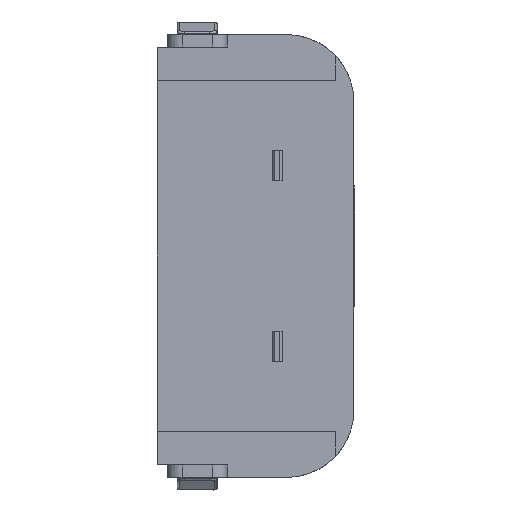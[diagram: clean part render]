
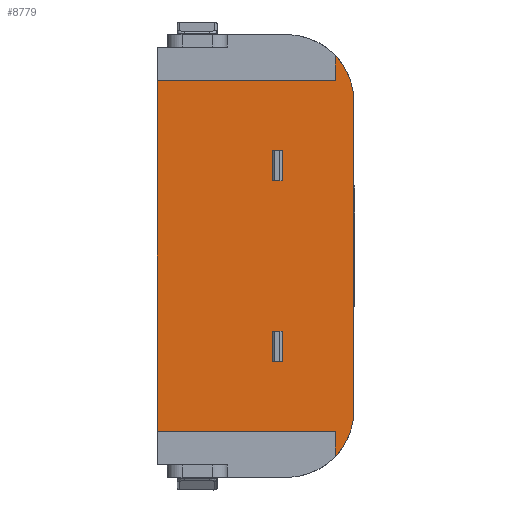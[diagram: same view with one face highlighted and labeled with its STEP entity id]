
A CAD part, left-side view. The second image highlights one B-rep face of the part: STEP entity #8779.
In plain terms, the highlighted planar face has unit normal (-1, 0, 0).
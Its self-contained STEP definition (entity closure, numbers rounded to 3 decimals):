
#2018=DIRECTION('',(0.,1.,0.));
#2019=VECTOR('',#2018,3.56);
#2020=CARTESIAN_POINT('',(2.5,2.34,-2.));
#2021=LINE('',#2020,#2019);
#2026=DIRECTION('',(0.,0.,-1.));
#2027=VECTOR('',#2026,0.498);
#2028=CARTESIAN_POINT('',(2.5,2.34,-1.502));
#2029=LINE('',#2028,#2027);
#2042=CARTESIAN_POINT('',(2.5,3.32,-2.43));
#2043=DIRECTION('',(1.,0.,0.));
#2044=DIRECTION('',(0.,-0.726,0.688));
#2045=AXIS2_PLACEMENT_3D('',#2042,#2043,#2044);
#2047=DIRECTION('',(0.,0.,-1.));
#2048=VECTOR('',#2047,6.14);
#2049=CARTESIAN_POINT('',(2.5,1.97,-2.43));
#2050=LINE('',#2049,#2048);
#2051=CARTESIAN_POINT('',(2.5,3.32,-8.57));
#2052=DIRECTION('',(1.,0.,0.));
#2053=DIRECTION('',(0.,-1.,0.));
#2054=AXIS2_PLACEMENT_3D('',#2051,#2052,#2053);
#2056=DIRECTION('',(0.,-1.,0.));
#2057=VECTOR('',#2056,3.56);
#2058=CARTESIAN_POINT('',(2.5,5.9,-9.));
#2059=LINE('',#2058,#2057);
#2064=DIRECTION('',(0.,0.,-1.));
#2065=VECTOR('',#2064,0.498);
#2066=CARTESIAN_POINT('',(2.5,2.34,-9.));
#2067=LINE('',#2066,#2065);
#3205=DIRECTION('',(0.,0.,-1.));
#3206=VECTOR('',#3205,7.);
#3207=CARTESIAN_POINT('',(2.5,5.9,-2.));
#3208=LINE('',#3207,#3206);
#3506=DIRECTION('',(0.,1.,0.));
#3507=VECTOR('',#3506,0.2);
#3508=CARTESIAN_POINT('',(2.5,3.4,-7.6));
#3509=LINE('',#3508,#3507);
#3522=DIRECTION('',(0.,-1.,0.));
#3523=VECTOR('',#3522,0.2);
#3524=CARTESIAN_POINT('',(2.5,3.6,-7.));
#3525=LINE('',#3524,#3523);
#3550=DIRECTION('',(0.,0.,1.));
#3551=VECTOR('',#3550,0.6);
#3552=CARTESIAN_POINT('',(2.5,3.6,-7.6));
#3553=LINE('',#3552,#3551);
#3566=DIRECTION('',(0.,0.,-1.));
#3567=VECTOR('',#3566,0.6);
#3568=CARTESIAN_POINT('',(2.5,3.4,-7.));
#3569=LINE('',#3568,#3567);
#3582=DIRECTION('',(0.,0.,1.));
#3583=VECTOR('',#3582,0.6);
#3584=CARTESIAN_POINT('',(2.5,3.6,-4.));
#3585=LINE('',#3584,#3583);
#3606=DIRECTION('',(0.,1.,0.));
#3607=VECTOR('',#3606,0.2);
#3608=CARTESIAN_POINT('',(2.5,3.4,-4.));
#3609=LINE('',#3608,#3607);
#3614=DIRECTION('',(0.,-1.,0.));
#3615=VECTOR('',#3614,0.2);
#3616=CARTESIAN_POINT('',(2.5,3.6,-3.4));
#3617=LINE('',#3616,#3615);
#3634=DIRECTION('',(0.,0.,-1.));
#3635=VECTOR('',#3634,0.6);
#3636=CARTESIAN_POINT('',(2.5,3.4,-3.4));
#3637=LINE('',#3636,#3635);
#4532=CARTESIAN_POINT('',(2.5,1.97,-2.43));
#4533=CARTESIAN_POINT('',(2.5,1.97,-8.57));
#4534=VERTEX_POINT('',#4532);
#4535=VERTEX_POINT('',#4533);
#4552=CARTESIAN_POINT('',(2.5,3.4,-7.6));
#4553=CARTESIAN_POINT('',(2.5,3.6,-7.6));
#4554=VERTEX_POINT('',#4552);
#4555=VERTEX_POINT('',#4553);
#4556=CARTESIAN_POINT('',(2.5,3.4,-7.));
#4557=VERTEX_POINT('',#4556);
#4558=CARTESIAN_POINT('',(2.5,3.6,-7.));
#4559=VERTEX_POINT('',#4558);
#4560=CARTESIAN_POINT('',(2.5,3.6,-4.));
#4561=CARTESIAN_POINT('',(2.5,3.6,-3.4));
#4562=VERTEX_POINT('',#4560);
#4563=VERTEX_POINT('',#4561);
#4564=CARTESIAN_POINT('',(2.5,3.4,-4.));
#4565=VERTEX_POINT('',#4564);
#4566=CARTESIAN_POINT('',(2.5,3.4,-3.4));
#4567=VERTEX_POINT('',#4566);
#4568=CARTESIAN_POINT('',(2.5,5.9,-9.));
#4569=CARTESIAN_POINT('',(2.5,2.34,-9.));
#4570=VERTEX_POINT('',#4568);
#4571=VERTEX_POINT('',#4569);
#4576=CARTESIAN_POINT('',(2.5,2.34,-9.498));
#4577=VERTEX_POINT('',#4576);
#4579=CARTESIAN_POINT('',(2.5,2.34,-2.));
#4581=VERTEX_POINT('',#4579);
#4582=CARTESIAN_POINT('',(2.5,2.34,-1.502));
#4583=VERTEX_POINT('',#4582);
#5491=CARTESIAN_POINT('',(2.5,5.9,-2.));
#5492=VERTEX_POINT('',#5491);
#8739=CARTESIAN_POINT('',(2.5,3.935,-5.5));
#8740=DIRECTION('',(1.,0.,0.));
#8741=DIRECTION('',(0.,1.,0.));
#8742=AXIS2_PLACEMENT_3D('',#8739,#8740,#8741);
#8743=PLANE('',#8742);
#8745=ORIENTED_EDGE('',*,*,#8744,.F.);
#8747=ORIENTED_EDGE('',*,*,#8746,.F.);
#8748=ORIENTED_EDGE('',*,*,#8702,.F.);
#8749=ORIENTED_EDGE('',*,*,#8718,.F.);
#8750=ORIENTED_EDGE('',*,*,#8728,.T.);
#8752=ORIENTED_EDGE('',*,*,#8751,.T.);
#8754=ORIENTED_EDGE('',*,*,#8753,.T.);
#8756=ORIENTED_EDGE('',*,*,#8755,.F.);
#8757=EDGE_LOOP('',(#8745,#8747,#8748,#8749,#8750,#8752,#8754,#8756));
#8758=FACE_OUTER_BOUND('',#8757,.F.);
#8760=ORIENTED_EDGE('',*,*,#8759,.F.);
#8762=ORIENTED_EDGE('',*,*,#8761,.F.);
#8764=ORIENTED_EDGE('',*,*,#8763,.F.);
#8766=ORIENTED_EDGE('',*,*,#8765,.F.);
#8767=EDGE_LOOP('',(#8760,#8762,#8764,#8766));
#8768=FACE_BOUND('',#8767,.F.);
#8770=ORIENTED_EDGE('',*,*,#8769,.F.);
#8772=ORIENTED_EDGE('',*,*,#8771,.F.);
#8774=ORIENTED_EDGE('',*,*,#8773,.F.);
#8776=ORIENTED_EDGE('',*,*,#8775,.F.);
#8777=EDGE_LOOP('',(#8770,#8772,#8774,#8776));
#8778=FACE_BOUND('',#8777,.F.);
#2046=CIRCLE('',#2045,1.35);
#2055=CIRCLE('',#2054,1.35);
#8702=EDGE_CURVE('',#4581,#5492,#2021,.T.);
#8718=EDGE_CURVE('',#4583,#4581,#2029,.T.);
#8728=EDGE_CURVE('',#4583,#4534,#2046,.T.);
#8744=EDGE_CURVE('',#4570,#4571,#2059,.T.);
#8746=EDGE_CURVE('',#5492,#4570,#3208,.T.);
#8751=EDGE_CURVE('',#4534,#4535,#2050,.T.);
#8753=EDGE_CURVE('',#4535,#4577,#2055,.T.);
#8755=EDGE_CURVE('',#4571,#4577,#2067,.T.);
#8759=EDGE_CURVE('',#4554,#4555,#3509,.T.);
#8761=EDGE_CURVE('',#4557,#4554,#3569,.T.);
#8763=EDGE_CURVE('',#4559,#4557,#3525,.T.);
#8765=EDGE_CURVE('',#4555,#4559,#3553,.T.);
#8769=EDGE_CURVE('',#4562,#4563,#3585,.T.);
#8771=EDGE_CURVE('',#4565,#4562,#3609,.T.);
#8773=EDGE_CURVE('',#4567,#4565,#3637,.T.);
#8775=EDGE_CURVE('',#4563,#4567,#3617,.T.);
#8779=ADVANCED_FACE('',(#8758,#8768,#8778),#8743,.F.);
